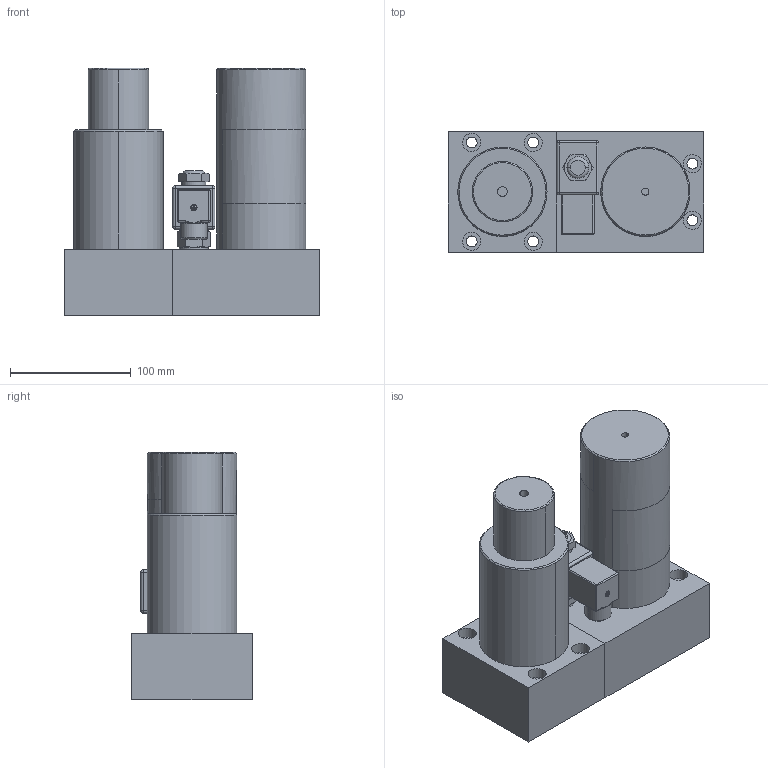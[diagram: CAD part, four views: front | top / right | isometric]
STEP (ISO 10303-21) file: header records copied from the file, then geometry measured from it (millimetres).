
FILE_DESCRIPTION(('CATIA V5 STEP Exchange'),'2;1');
FILE_NAME('W:\LIBRERIA TECAPRES®\DIBUJOS STRACK 2012\TPMC 2015\TPMC 3000\TPMCA 3000x50.stp','2015-11-03T16:29:55+00:00',('none'),('none'),'CATIA Version 5 Release 17 (IN-10)','CATIA V5 STEP AP203','none');
FILE_SCHEMA(('CONFIG_CONTROL_DESIGN'));
Length unit declared in the file: millimetre
Products named in the file (1): TPMCA 3000x50
Bounding box: 212 x 100 x 205 mm (x, y, z)
Volume: 2407081 mm3; surface area: 199986.8 mm2
Topology: 6 solids, 6 shells, 180 faces, 424 edges, 257 vertices
Faces by surface type: plane 67, cylinder 66, revolution 18, sphere 12, torus 9, cone 6, bspline 2
Entity records: 5491 total; most frequent: CARTESIAN_POINT 1689, ORIENTED_EDGE 820, DIRECTION 607, EDGE_CURVE 410, AXIS2_PLACEMENT_3D 294, VERTEX_POINT 257, EDGE_LOOP 207, ADVANCED_FACE 180
